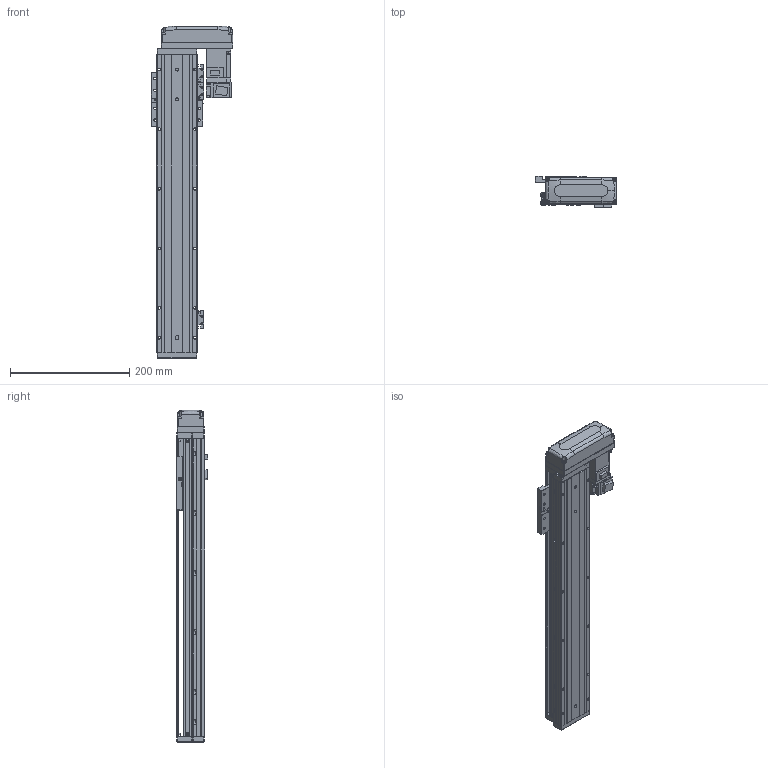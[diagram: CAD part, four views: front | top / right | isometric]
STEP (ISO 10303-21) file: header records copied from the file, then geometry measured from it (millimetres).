
FILE_DESCRIPTION (( 'STEP AP203' ), '1' );
FILE_NAME ('KTHAL60-350-BL-M10-C4L.step', '2022-03-19T08:37:52', ( '微软用户' ), ( '微软中国' ), 'SwSTEP 2.0', 'SolidWorks 2020', '' );
FILE_SCHEMA (( 'CONFIG_CONTROL_DESIGN' ));
Length unit declared in the file: millimetre
Products named in the file (18): CTHA60-015-2_CTHA60-015-2; KTHLA60-002; CTHA60-021; CTHA60-033; KTHA60-004; GBT 70.1-M4×16; GBT 70.1-M3×15; KTHA60-005; GBT77-2000M3-3; KTHAL60-350-BL-M10-C4L; GB¨uT 70.2-M3¡Á5_M3¡Á6; GBT 70.1-M3℅6; GBT 70.3-M3℅6; CTHA60-016; EE_SX911P_R; HG-KR13（三菱）; KTHA60-001_500; CTHA60-017
Assembly tree (51 placements, depth 2):
  KTHAL60-350-BL-M10-C4L
    KTHA60-001_500
    KTHLA60-002
    KTHA60-004
    KTHA60-005
    GB¨uT 70.2-M3¡Á5_M3¡Á6  x5
    GBT 70.3-M3℅6  x4
    EE_SX911P_R  x3
    CTHA60-017  x3
    CTHA60-021  x2
    GBT 70.1-M4×16  x10
    GBT77-2000M3-3  x6
    GBT 70.1-M3℅6  x6
    CTHA60-016
    HG-KR13（三菱）
    CTHA60-015-2_CTHA60-015-2
    CTHA60-033
    GBT 70.1-M3×15  x4
Bounding box: 137 x 53.3 x 557 mm (x, y, z)
Volume: 1288560.8 mm3; surface area: 317911.4 mm2
Topology: 54 solids, 54 shells, 2275 faces, 5387 edges, 3305 vertices
Faces by surface type: plane 1300, cylinder 553, cone 284, torus 98, bspline 26, sphere 14
Entity records: 39347 total; most frequent: CARTESIAN_POINT 7448, DIRECTION 6133, ORIENTED_EDGE 5918, EDGE_CURVE 2959, AXIS2_PLACEMENT_3D 2057, LINE 2019, VECTOR 2019, VERTEX_POINT 1854
